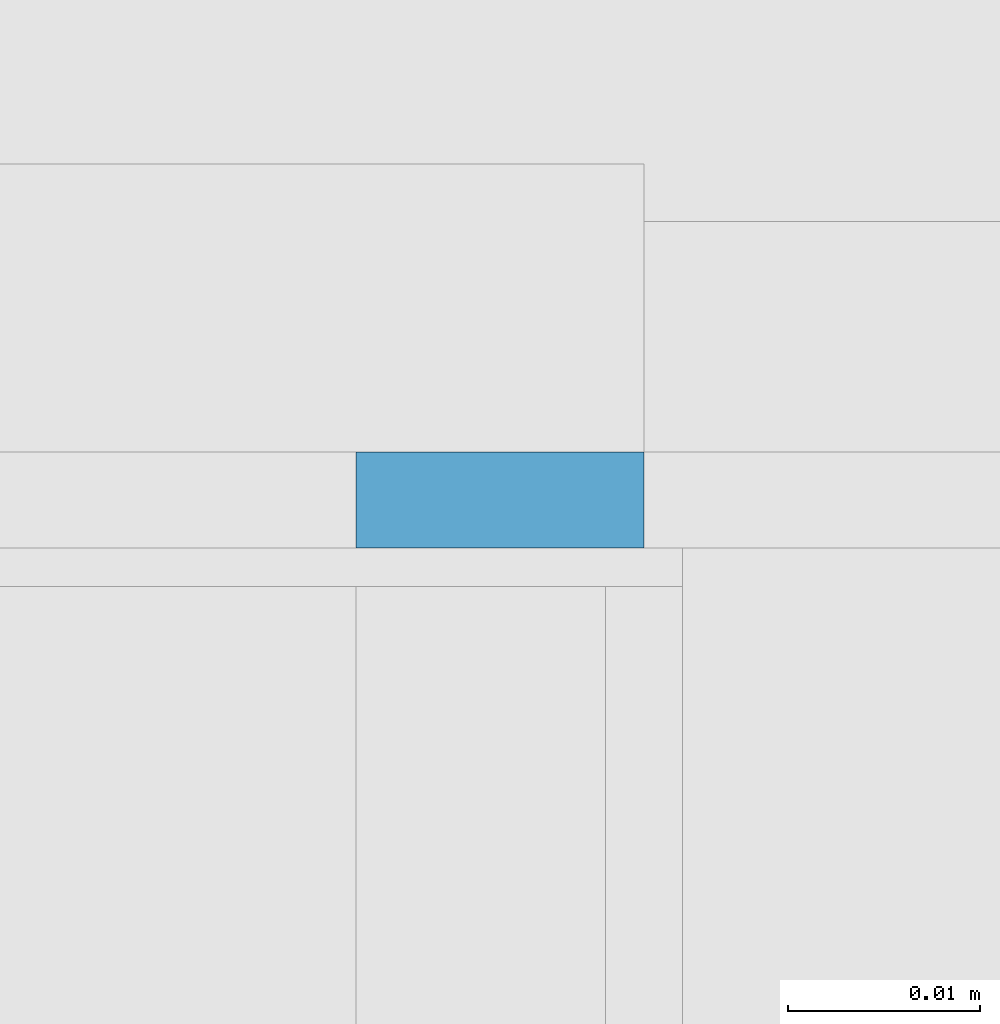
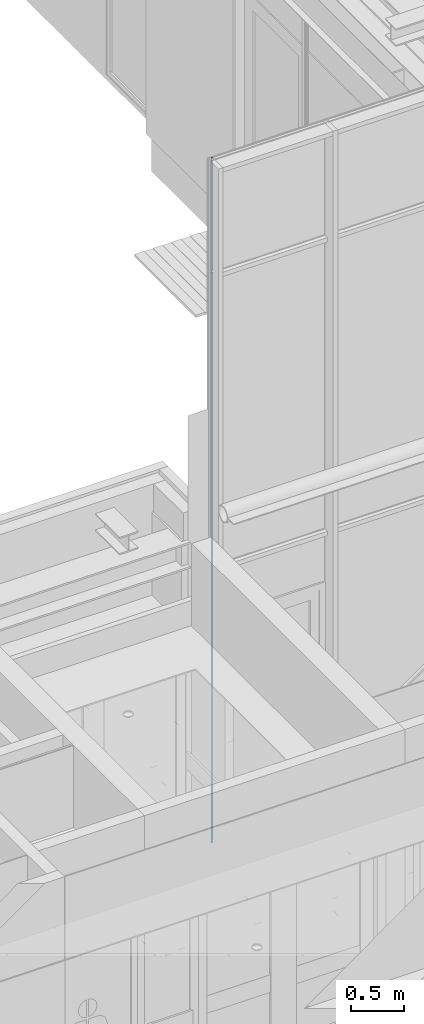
# One storey, part 96 of 347: 1 building element part, 1 element without a shape of its own.
"""IFC2X3 building model written with IfcOpenShell, lengths in millimetres."""

from ifc_helpers import new_model, entity, si_unit, converted_unit, derived_unit, money_unit, direction, frame, origin_with_axes, place, context, subcontext, project, spatial, faceted_brep, material, type_object, element, aggregate, save


model = new_model("IFC2X3")

# Units and contexts
model_context = context("Model", 3, precision=0.01, world=origin_with_axes(), true_north=direction((0.0, 1.0)))
plan_context = context("Plan", 3, precision=0.01, world=origin_with_axes(), true_north=direction((0.0, 1.0)))
body_context = subcontext(model_context, "Body", "Model", "MODEL_VIEW")
ifc_project = project(units=[si_unit("LENGTHUNIT", "METRE", prefix="MILLI"), si_unit("AREAUNIT", "SQUARE_METRE"), si_unit("VOLUMEUNIT", "CUBIC_METRE"), converted_unit("PLANEANGLEUNIT", "DEGREE", entity("IfcPlaneAngleMeasure", 0.0174532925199), si_unit("PLANEANGLEUNIT", "RADIAN"), dimensions=[0, 0, 0, 0, 0, 0, 0]), money_unit("EUR"), converted_unit("TIMEUNIT", "Year", entity("IfcTimeMeasure", 31556926.0), si_unit("TIMEUNIT", "SECOND"), dimensions=[0, 0, 1, 0, 0, 0, 0]), si_unit("MASSUNIT", "GRAM", prefix="KILO"), si_unit("THERMODYNAMICTEMPERATUREUNIT", "DEGREE_CELSIUS"), si_unit("LUMINOUSINTENSITYUNIT", "LUMEN"), si_unit("ENERGYUNIT", "JOULE", prefix="MEGA"), derived_unit("THERMALCONDUCTANCEUNIT", [(si_unit("POWERUNIT", "WATT"), 1), (si_unit("LENGTHUNIT", "METRE"), -1), (si_unit("THERMODYNAMICTEMPERATUREUNIT", "KELVIN"), -1)]), derived_unit("SPECIFICHEATCAPACITYUNIT", [(si_unit("ENERGYUNIT", "JOULE"), 1), (si_unit("MASSUNIT", "GRAM", prefix="KILO"), -1), (si_unit("THERMODYNAMICTEMPERATUREUNIT", "KELVIN"), -1)]), derived_unit("MASSDENSITYUNIT", [(si_unit("MASSUNIT", "GRAM", prefix="KILO"), 1), (si_unit("VOLUMEUNIT", "CUBIC_METRE"), -1)])], contexts=[model_context, plan_context])

# Site, building, storey
site_placement = place(None, origin_with_axes())
site = spatial("IfcSite", under=ifc_project, at=site_placement, Name="Site", CompositionType="ELEMENT")
building_placement = place(site_placement, origin_with_axes())
building = spatial("IfcBuilding", under=site, at=building_placement, Name="Naam gebouw", CompositionType="ELEMENT")
storey_placement = place(building_placement, origin_with_axes())
storey = spatial("IfcBuildingStorey", under=building, at=storey_placement, Name="begane grond", CompositionType="ELEMENT", Elevation=0.0)

# Column, building element part
column_type = type_object("IfcColumnType", Name="31 vliesgevelstijl 50 x 215", PredefinedType="COLUMN")
column_placement = place(storey_placement, frame((18650.0, 18400.0, 0.0), z_axis=(0.0, 0.0, 1.0), x_axis=(1.0, 0.0, 0.0)))
column = element("IfcColumn", 1, at=column_placement, inside=storey, type_object=column_type, Name="28_kolom ø 275mm", ObjectType="COLUMN")
ifc_material = material(Name="Membraan - rubber")
building_element_part_placement = place(column_placement, origin_with_axes())
building_element_part = element("IfcBuildingElementPart", 2, at=building_element_part_placement, material=ifc_material, Name="Membraan - rubber", context=body_context, shape_type="Brep", body=[
    faceted_brep([(25.0000002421, 195.000000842, 6525.00000048), (25.0000002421, 195.000000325, 3185.00000058), (25.0000002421, 199.999999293, 3185.00000058), (25.0000002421, 199.999999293, 6525.00000048), (23.0000002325, 195.000000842, 6525.00000048), (23.0000002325, 195.000000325, 3185.00000058), (15.0, 195.000000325, 3185.00000058), (15.0, 199.999999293, 3185.00000058), (15.0, 199.999999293, 3165.00000048), (25.0000002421, 199.999999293, 3165.00000048), (25.0000002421, 200.000000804, 35.0000005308), (15.0, 200.000000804, 35.0000005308), (15.0, 200.000000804, 14.9999997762), (25.0000002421, 200.000000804, 14.9999997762), (25.0000002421, 200.000000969, 0.0), (10.0000001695, 200.000000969, 0.0), (10.0000001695, 200.000000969, 7840.0), (25.0000002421, 200.000000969, 7840.0), (25.0000002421, 200.000001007, 7824.99999994), (15.0, 200.000001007, 7824.99999994), (15.0, 200.000001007, 7804.99999952), (25.0000002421, 200.000001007, 7804.99999952), (25.0000002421, 199.999999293, 6545.00000058), (15.0, 199.999999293, 6545.00000058), (15.0, 199.999999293, 6525.00000048), (15.0, 195.000000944, 6525.00000048), (15.0, 195.000000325, 3165.00000048), (15.0, 195.000000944, 6545.00000058), (23.0000002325, 195.000000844, 6545.00000058), (23.0000002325, 195.000000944, 7804.99999952), (15.0, 195.000000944, 7804.99999952), (15.0, 195.000000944, 7824.99999994), (23.0000002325, 195.000000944, 7824.99999994), (23.0000002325, 195.000000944, 7840.0), (10.0000001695, 195.000000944, 7840.0), (10.0000001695, 195.000000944, 0.0), (23.0000002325, 195.000000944, 0.0), (23.0000002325, 195.000000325, 14.9999997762), (15.0, 195.000000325, 14.9999997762), (15.0, 195.000000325, 35.0000005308), (23.0000002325, 195.000000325, 35.0000005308), (23.0000002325, 195.000000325, 3165.00000048), (25.0000002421, 195.000000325, 3165.00000048), (25.0000002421, 195.000000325, 35.0000005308), (25.0000002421, 195.000000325, 14.9999997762), (25.0000002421, 195.000000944, 0.0), (25.0000002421, 195.000000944, 7840.0), (25.0000002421, 195.000000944, 7824.99999994), (25.0000002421, 195.000000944, 7804.99999952), (25.0000002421, 195.000000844, 6545.00000058)], [[[0, 1, 2, 3]], [[4, 5, 1, 0]], [[6, 7, 2, 1, 5]], [[7, 8, 9, 10, 11, 12, 13, 14, 15, 16, 17, 18, 19, 20, 21, 22, 23, 24, 3, 2]], [[4, 0, 3, 24, 25]], [[26, 6, 5, 4, 25, 27, 28, 29, 30, 31, 32, 33, 34, 35, 36, 37, 38, 39, 40, 41]], [[26, 8, 7, 6]], [[41, 42, 9, 8, 26]], [[10, 9, 42, 43]], [[39, 11, 10, 43, 40]], [[38, 12, 11, 39]], [[37, 44, 13, 12, 38]], [[14, 13, 44, 45]], [[36, 35, 15, 14, 45]], [[34, 16, 15, 35]], [[46, 17, 16, 34, 33]], [[46, 47, 18, 17]], [[31, 19, 18, 47, 32]], [[30, 20, 19, 31]], [[29, 48, 21, 20, 30]], [[48, 49, 22, 21]], [[27, 23, 22, 49, 28]], [[25, 24, 23, 27]], [[29, 28, 49, 48]], [[33, 32, 47, 46]], [[45, 44, 37, 36]], [[43, 42, 41, 40]]]),
])
aggregate(column, [building_element_part])

save(model, "model.ifc")
